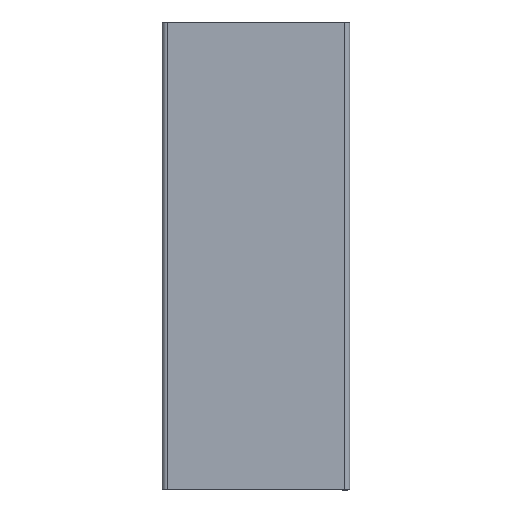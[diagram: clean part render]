
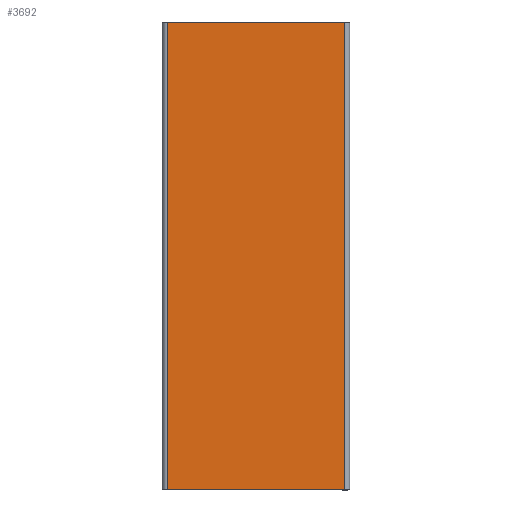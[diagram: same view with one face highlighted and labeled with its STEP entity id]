
A CAD part, front view. The second image highlights one B-rep face of the part: STEP entity #3692.
In plain terms, the highlighted planar face has unit normal (0, -1, 0).
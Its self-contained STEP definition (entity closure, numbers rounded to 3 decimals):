
#83=CARTESIAN_POINT('',(19.,-20.,0.0));
#84=VERTEX_POINT('',#83);
#92=CARTESIAN_POINT('',(-19.,-20.,0.0));
#93=VERTEX_POINT('',#92);
#94=CARTESIAN_POINT('',(-19.0,-20.,0.0));
#95=DIRECTION('',(1.0,0.0,0.0));
#96=VECTOR('',#95,38.);
#97=LINE('',#94,#96);
#98=EDGE_CURVE('',#93,#84,#97,.T.);
#1496=CARTESIAN_POINT('',(-19.,-20.,100.0));
#1497=VERTEX_POINT('',#1496);
#1505=CARTESIAN_POINT('',(19.,-20.,100.0));
#1506=VERTEX_POINT('',#1505);
#1507=CARTESIAN_POINT('',(19.,-20.,100.0));
#1508=DIRECTION('',(-1.0,0.0,0.0));
#1509=VECTOR('',#1508,38.);
#1510=LINE('',#1507,#1509);
#1511=EDGE_CURVE('',#1506,#1497,#1510,.T.);
#2300=CARTESIAN_POINT('',(-19.,-20.,0.0));
#2301=DIRECTION('',(0.0,0.0,1.0));
#2302=VECTOR('',#2301,100.0);
#2303=LINE('',#2300,#2302);
#2304=EDGE_CURVE('',#93,#1497,#2303,.T.);
#2332=CARTESIAN_POINT('',(19.,-20.,100.0));
#2333=DIRECTION('',(0.0,0.0,-1.0));
#2334=VECTOR('',#2333,100.0);
#2335=LINE('',#2332,#2334);
#2336=EDGE_CURVE('',#1506,#84,#2335,.T.);
#3681=CARTESIAN_POINT('',(0.,-20.,0.0));
#3682=DIRECTION('',(0.0,-1.0,0.0));
#3683=DIRECTION('',(0.0,0.0,1.0));
#3684=AXIS2_PLACEMENT_3D('',#3681,#3682,#3683);
#3685=PLANE('',#3684);
#3686=ORIENTED_EDGE('',*,*,#2336,.F.);
#3687=ORIENTED_EDGE('',*,*,#1511,.T.);
#3688=ORIENTED_EDGE('',*,*,#2304,.F.);
#3689=ORIENTED_EDGE('',*,*,#98,.T.);
#3690=EDGE_LOOP('',(#3686,#3687,#3688,#3689));
#3691=FACE_OUTER_BOUND('',#3690,.T.);
#3692=ADVANCED_FACE('',(#3691),#3685,.T.);
